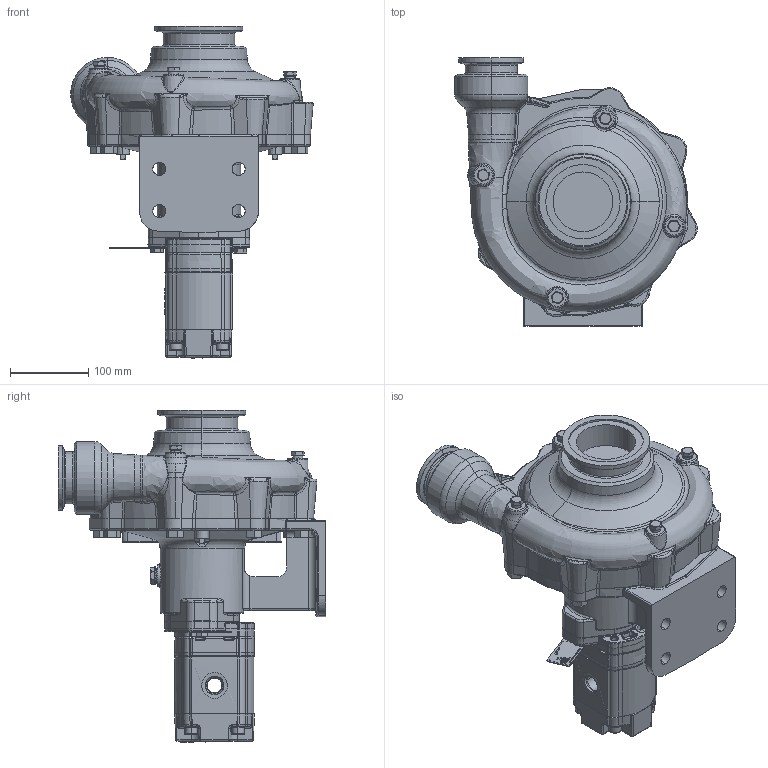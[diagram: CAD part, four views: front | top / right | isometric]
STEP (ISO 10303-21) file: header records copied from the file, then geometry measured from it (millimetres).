
FILE_DESCRIPTION (( 'STEP AP214' ), '1' );
FILE_NAME ('9307CWS-GM12.STEP', '2020-04-22T19:00:04', ( '' ), ( '' ), 'SwSTEP 2.0', 'SolidWorks 2017', '' );
FILE_SCHEMA (( 'AUTOMOTIVE_DESIGN' ));
Length unit declared in the file: inch
Products named in the file (2): 9307CWS-GM12
Bounding box: 310.64 x 343.08 x 425.19 mm (x, y, z)
Surface area: 563003.8 mm2 (no closed solid volume)
Topology: 0 solids, 10 shells, 3536 faces, 9231 edges, 5827 vertices
Faces by surface type: plane 1436, bspline 1138, cylinder 457, cone 306, torus 174, sphere 25
Entity records: 245664 total; most frequent: CARTESIAN_POINT 122414, ORIENTED_EDGE 18017, DIRECTION 12800, EDGE_CURVE 9161, VERTEX_POINT 5827, VECTOR 4436, LINE 4436, AXIS2_PLACEMENT_3D 4182
